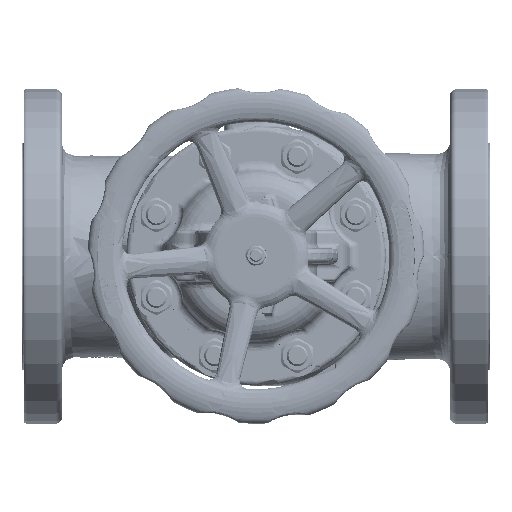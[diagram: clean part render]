
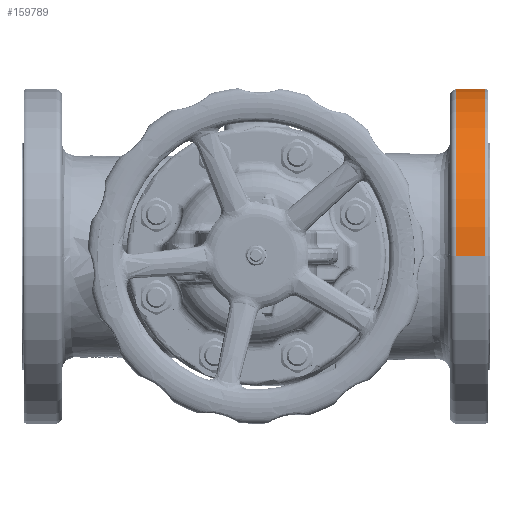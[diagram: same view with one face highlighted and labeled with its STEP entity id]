
A CAD part, top view. The second image highlights one B-rep face of the part: STEP entity #159789.
In plain terms, the highlighted cylindrical face has radius 159 mm (diameter 318 mm), a partial arc.
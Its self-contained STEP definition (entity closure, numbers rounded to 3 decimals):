
#36481=CARTESIAN_POINT('',(190.5,0.,0.));
#36482=DIRECTION('',(-1.,0.,0.));
#36483=DIRECTION('',(0.,0.,1.));
#36484=AXIS2_PLACEMENT_3D('',#36481,#36482,#36483);
#36486=CARTESIAN_POINT('',(217.652,0.,0.));
#36487=DIRECTION('',(-1.,0.,0.));
#36488=DIRECTION('',(0.,0.,1.));
#36489=AXIS2_PLACEMENT_3D('',#36486,#36487,#36488);
#36958=DIRECTION('',(-1.,0.,0.));
#36959=VECTOR('',#36958,27.152);
#36960=CARTESIAN_POINT('',(217.652,0.,159.));
#36961=LINE('',#36960,#36959);
#36967=DIRECTION('',(-1.,0.,0.));
#36968=VECTOR('',#36967,27.152);
#36969=CARTESIAN_POINT('',(217.652,0.,-159.));
#36970=LINE('',#36969,#36968);
#75017=CARTESIAN_POINT('',(190.5,0.,159.));
#75018=CARTESIAN_POINT('',(190.5,0.,-159.));
#75019=VERTEX_POINT('',#75017);
#75020=VERTEX_POINT('',#75018);
#75023=CARTESIAN_POINT('',(217.652,0.,159.));
#75024=VERTEX_POINT('',#75023);
#75027=CARTESIAN_POINT('',(217.652,0.,-159.));
#75028=VERTEX_POINT('',#75027);
#159775=CARTESIAN_POINT('',(250.25,0.,0.));
#159776=DIRECTION('',(-1.,0.,0.));
#159777=DIRECTION('',(0.,0.,1.));
#159778=AXIS2_PLACEMENT_3D('',#159775,#159776,#159777);
#159779=CYLINDRICAL_SURFACE('',#159778,159.);
#159781=ORIENTED_EDGE('',*,*,#159780,.T.);
#159783=ORIENTED_EDGE('',*,*,#159782,.F.);
#159784=ORIENTED_EDGE('',*,*,#159770,.F.);
#159786=ORIENTED_EDGE('',*,*,#159785,.T.);
#159787=EDGE_LOOP('',(#159781,#159783,#159784,#159786));
#159788=FACE_OUTER_BOUND('',#159787,.F.);
#159789=ADVANCED_FACE('',(#159788),#159779,.T.);
#36485=CIRCLE('',#36484,159.);
#36490=CIRCLE('',#36489,159.);
#159770=EDGE_CURVE('',#75024,#75028,#36490,.T.);
#159780=EDGE_CURVE('',#75019,#75020,#36485,.T.);
#159782=EDGE_CURVE('',#75028,#75020,#36970,.T.);
#159785=EDGE_CURVE('',#75024,#75019,#36961,.T.);
